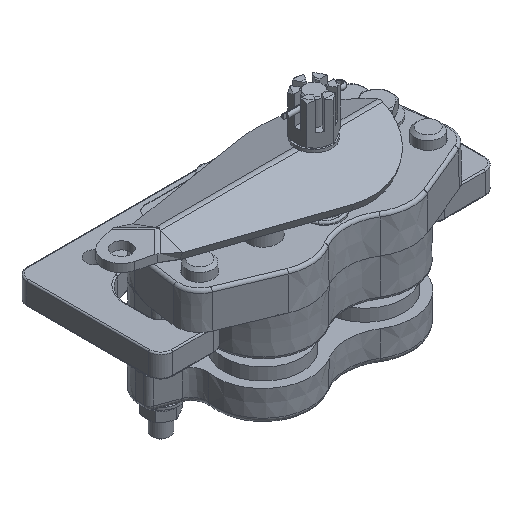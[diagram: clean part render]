
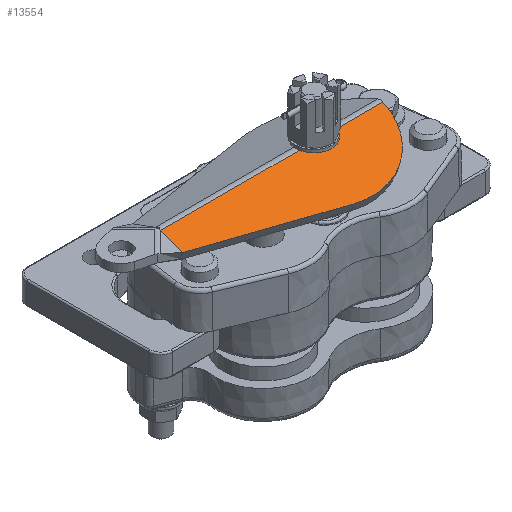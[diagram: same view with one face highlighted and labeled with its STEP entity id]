
A CAD part, isometric view. The second image highlights one B-rep face of the part: STEP entity #13554.
In plain terms, the highlighted planar face has unit normal (0, -0.342, 0.94).
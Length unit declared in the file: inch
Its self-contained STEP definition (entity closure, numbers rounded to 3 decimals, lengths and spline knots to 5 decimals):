
#757 = VECTOR ( 'NONE', #34194, 39.37008 ) ;
#1448 = ORIENTED_EDGE ( 'NONE', *, *, #26640, .T. ) ;
#3285 = CARTESIAN_POINT ( 'NONE',  ( 1.37854, -0.05609, 1.95238 ) ) ;
#3551 = DIRECTION ( 'NONE',  ( 0.972, -0.222, -0.081 ) ) ;
#6044 = DIRECTION ( 'NONE',  ( -1., 0., 0. ) ) ;
#7331 = CARTESIAN_POINT ( 'NONE',  ( -0.345, -1.17988, 1.54336 ) ) ;
#10079 = VERTEX_POINT ( 'NONE', #33499 ) ;
#10549 = ORIENTED_EDGE ( 'NONE', *, *, #44917, .T. ) ;
#10927 = CARTESIAN_POINT ( 'NONE',  ( 0., -0.05609, 1.95238 ) ) ;
#11614 = CARTESIAN_POINT ( 'NONE',  ( 0.18243, -0.41271, 1.82259 ) ) ;
#11994 = VERTEX_POINT ( 'NONE', #13546 ) ;
#13546 = CARTESIAN_POINT ( 'NONE',  ( -0.25951, -0.05609, 1.95238 ) ) ;
#13554 = ADVANCED_FACE ( 'NONE', ( #37258 ), #49266, .F. ) ;
#13759 = DIRECTION ( 'NONE',  ( 0., 0.342, -0.94 ) ) ;
#13969 = EDGE_LOOP ( 'NONE', ( #15255, #1448, #31905, #33263, #10549, #27323 ) ) ;
#14214 = CARTESIAN_POINT ( 'NONE',  ( 0.25951, -0.05609, 1.95238 ) ) ;
#14323 = LINE ( 'NONE', #10927, #35979 ) ;
#14573 =( BOUNDED_CURVE ( )  B_SPLINE_CURVE ( 3, ( #7331, #19068, #24025, #51180 ),
 .UNSPECIFIED., .F., .T. ) 
 B_SPLINE_CURVE_WITH_KNOTS ( ( 4, 4 ),
 ( 1.31812, 3.09555 ),
 .UNSPECIFIED. ) 
 CURVE ( )  GEOMETRIC_REPRESENTATION_ITEM ( )  RATIONAL_B_SPLINE_CURVE ( ( 1., 0.754, 0.754, 1. ) ) 
 REPRESENTATION_ITEM ( '' )  );
#15255 = ORIENTED_EDGE ( 'NONE', *, *, #34696, .F. ) ;
#15783 = CARTESIAN_POINT ( 'NONE',  ( -0.18243, -0.41271, 1.82259 ) ) ;
#16901 = CARTESIAN_POINT ( 'NONE',  ( 0., 0., 1.9728 ) ) ;
#18830 =( BOUNDED_CURVE ( )  B_SPLINE_CURVE ( 3, ( #40049, #15783, #11614, #35627 ),
 .UNSPECIFIED., .F., .F. ) 
 B_SPLINE_CURVE_WITH_KNOTS ( ( 4, 4 ),
 ( 1.78367, 4.49952 ),
 .UNSPECIFIED. ) 
 CURVE ( )  GEOMETRIC_REPRESENTATION_ITEM ( )  RATIONAL_B_SPLINE_CURVE ( ( 1., 0.474, 0.474, 1. ) ) 
 REPRESENTATION_ITEM ( '' )  );
#19068 = CARTESIAN_POINT ( 'NONE',  ( 0.57257, -1.38908, 1.46722 ) ) ;
#19179 = CARTESIAN_POINT ( 'NONE',  ( -0.345, -1.17988, 1.54336 ) ) ;
#20072 = CARTESIAN_POINT ( 'NONE',  ( -3.24834, -0.51793, 1.78429 ) ) ;
#20865 = EDGE_CURVE ( 'NONE', #51510, #28213, #14323, .T. ) ;
#21512 = EDGE_CURVE ( 'NONE', #25967, #42600, #51050, .T. ) ;
#22180 = CARTESIAN_POINT ( 'NONE',  ( -3.24834, -0.51755, 1.78443 ) ) ;
#22228 = LINE ( 'NONE', #30322, #47001 ) ;
#24025 = CARTESIAN_POINT ( 'NONE',  ( 1.33492, -0.89201, 1.64813 ) ) ;
#25754 = DIRECTION ( 'NONE',  ( 0., 0.94, 0.342 ) ) ;
#25967 = VERTEX_POINT ( 'NONE', #20072 ) ;
#26640 = EDGE_CURVE ( 'NONE', #11994, #10079, #22228, .T. ) ;
#27323 = ORIENTED_EDGE ( 'NONE', *, *, #20865, .T. ) ;
#28213 = VERTEX_POINT ( 'NONE', #14214 ) ;
#30322 = CARTESIAN_POINT ( 'NONE',  ( 0., -0.05609, 1.95238 ) ) ;
#31905 = ORIENTED_EDGE ( 'NONE', *, *, #35596, .T. ) ;
#33263 = ORIENTED_EDGE ( 'NONE', *, *, #21512, .T. ) ;
#33499 = CARTESIAN_POINT ( 'NONE',  ( -3.24834, -0.05609, 1.95238 ) ) ;
#33937 = LINE ( 'NONE', #22180, #757 ) ;
#34194 = DIRECTION ( 'NONE',  ( 0., -0.94, -0.342 ) ) ;
#34696 = EDGE_CURVE ( 'NONE', #11994, #28213, #18830, .T. ) ;
#35596 = EDGE_CURVE ( 'NONE', #10079, #25967, #33937, .T. ) ;
#35627 = CARTESIAN_POINT ( 'NONE',  ( 0.25951, -0.05609, 1.95238 ) ) ;
#35979 = VECTOR ( 'NONE', #38859, 39.37008 ) ;
#37258 = FACE_OUTER_BOUND ( 'NONE', #13969, .T. ) ;
#38859 = DIRECTION ( 'NONE',  ( -1., 0., 0. ) ) ;
#39825 = CARTESIAN_POINT ( 'NONE',  ( -0.345, -1.17988, 1.54336 ) ) ;
#40049 = CARTESIAN_POINT ( 'NONE',  ( -0.25951, -0.05609, 1.95238 ) ) ;
#42600 = VERTEX_POINT ( 'NONE', #19179 ) ;
#44917 = EDGE_CURVE ( 'NONE', #42600, #51510, #14573, .T. ) ;
#45632 = AXIS2_PLACEMENT_3D ( 'NONE', #16901, #13759, #25754 ) ;
#47001 = VECTOR ( 'NONE', #6044, 39.37008 ) ;
#49266 = PLANE ( 'NONE',  #45632 ) ;
#50053 = VECTOR ( 'NONE', #3551, 39.37008 ) ;
#51050 = LINE ( 'NONE', #39825, #50053 ) ;
#51180 = CARTESIAN_POINT ( 'NONE',  ( 1.37854, -0.05609, 1.95238 ) ) ;
#51510 = VERTEX_POINT ( 'NONE', #3285 ) ;
